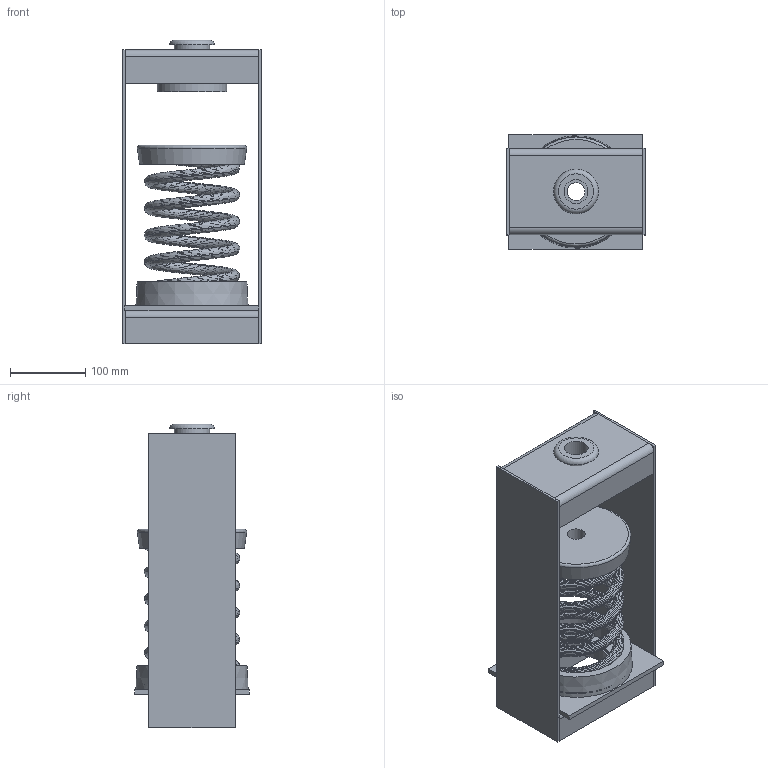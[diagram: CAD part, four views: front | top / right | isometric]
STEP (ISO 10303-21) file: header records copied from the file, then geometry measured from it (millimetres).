
FILE_DESCRIPTION(/* description */ (''),/* implementation_level */ '2;1');
FILE_NAME(/* name */ 'C:\001_Work\Designs\HANGER BOXES\30N 100 SERIES\30N-108-109, 130-132, 150-153\30N-132.stp',/* time_stamp */ '2015-05-26T10:58:21-04:00',/* author */ ('rramoutar'),/* organization */ ('Mason Industries Inc.'),/* preprocessor_version */ 'ST-DEVELOPER v15.2',/* originating_system */ 'Autodesk Inventor 2014',/* authorisation */ '');
FILE_SCHEMA (('AUTOMOTIVE_DESIGN { 1 0 10303 214 3 1 1 }'));
Length unit declared in the file: inch
Products named in the file (1): 30N-132
Bounding box: 184.15 x 152.4 x 403.23 mm (x, y, z)
Volume: 1491781.2 mm3; surface area: 754508.8 mm2
Topology: 12 solids, 13 shells, 174 faces, 382 edges, 244 vertices
Faces by surface type: plane 112, cylinder 34, bspline 22, cone 4, torus 2
Full cylindrical faces by diameter (mm): 23.812 x2, 31.75 x2, 38.1 x1, 41.275 x2, 46.831 x1, 82.55 x2, 88.9 x1, 92.075 x1, 93.662 x1, 95.25 x2, 96.837 x1, 96.838 x1, 98.425 x3, 125.412 x1, 129.381 x1, 146.05 x2
Entity records: 14166 total; most frequent: CARTESIAN_POINT 10343, ORIENTED_EDGE 696, DIRECTION 684, EDGE_CURVE 348, AXIS2_PLACEMENT_3D 251, VERTEX_POINT 240, EDGE_LOOP 236, LINE 182
